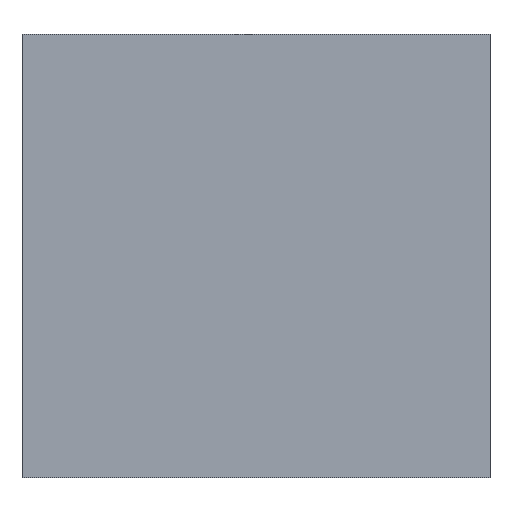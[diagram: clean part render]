
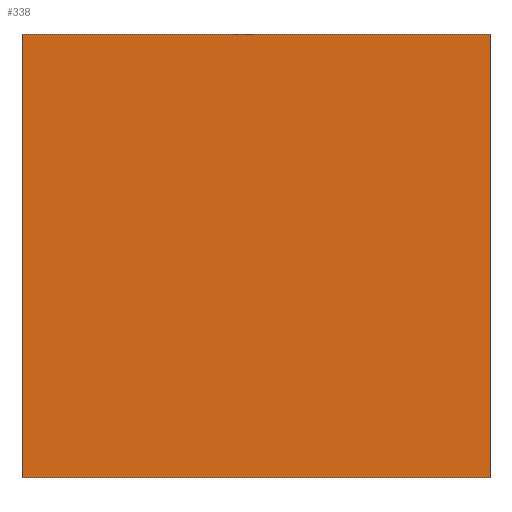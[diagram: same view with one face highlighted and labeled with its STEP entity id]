
A CAD part, top view. The second image highlights one B-rep face of the part: STEP entity #338.
In plain terms, the highlighted planar face has unit normal (0, 0, 1).
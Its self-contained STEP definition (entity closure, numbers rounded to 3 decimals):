
#24 = VERTEX_POINT('',#25);
#25 = CARTESIAN_POINT('',(-68.,-9.,15.6));
#32 = PLANE('',#33);
#33 = AXIS2_PLACEMENT_3D('',#34,#35,#36);
#34 = CARTESIAN_POINT('',(-68.,-9.,14.));
#35 = DIRECTION('',(1.,0.,0.));
#36 = DIRECTION('',(0.,0.,1.));
#44 = PLANE('',#45);
#45 = AXIS2_PLACEMENT_3D('',#46,#47,#48);
#46 = CARTESIAN_POINT('',(-68.,-9.,14.));
#47 = DIRECTION('',(0.,1.,0.));
#48 = DIRECTION('',(0.,0.,1.));
#85 = VERTEX_POINT('',#86);
#86 = CARTESIAN_POINT('',(-68.,9.,15.6));
#100 = PLANE('',#101);
#101 = AXIS2_PLACEMENT_3D('',#102,#103,#104);
#102 = CARTESIAN_POINT('',(-68.,9.,14.));
#103 = DIRECTION('',(0.,1.,0.));
#104 = DIRECTION('',(0.,0.,1.));
#112 = EDGE_CURVE('',#24,#85,#113,.T.);
#113 = SURFACE_CURVE('',#114,(#118,#125),.PCURVE_S1.);
#114 = LINE('',#115,#116);
#115 = CARTESIAN_POINT('',(-68.,-9.,15.6));
#116 = VECTOR('',#117,1.);
#117 = DIRECTION('',(0.,1.,0.));
#118 = PCURVE('',#32,#119);
#119 = DEFINITIONAL_REPRESENTATION('',(#120),#124);
#120 = LINE('',#121,#122);
#121 = CARTESIAN_POINT('',(1.6,0.));
#122 = VECTOR('',#123,1.);
#123 = DIRECTION('',(0.,-1.));
#124 = ( GEOMETRIC_REPRESENTATION_CONTEXT(2) 
PARAMETRIC_REPRESENTATION_CONTEXT() REPRESENTATION_CONTEXT('2D SPACE',''
  ) );
#125 = PCURVE('',#126,#131);
#126 = PLANE('',#127);
#127 = AXIS2_PLACEMENT_3D('',#128,#129,#130);
#128 = CARTESIAN_POINT('',(-68.,-9.,15.6));
#129 = DIRECTION('',(0.,0.,1.));
#130 = DIRECTION('',(1.,0.,0.));
#131 = DEFINITIONAL_REPRESENTATION('',(#132),#136);
#132 = LINE('',#133,#134);
#133 = CARTESIAN_POINT('',(0.,0.));
#134 = VECTOR('',#135,1.);
#135 = DIRECTION('',(0.,1.));
#136 = ( GEOMETRIC_REPRESENTATION_CONTEXT(2) 
PARAMETRIC_REPRESENTATION_CONTEXT() REPRESENTATION_CONTEXT('2D SPACE',''
  ) );
#144 = VERTEX_POINT('',#145);
#145 = CARTESIAN_POINT('',(-49.,-9.,15.6));
#152 = PLANE('',#153);
#153 = AXIS2_PLACEMENT_3D('',#154,#155,#156);
#154 = CARTESIAN_POINT('',(-49.,-9.,14.));
#155 = DIRECTION('',(1.,0.,0.));
#156 = DIRECTION('',(0.,0.,1.));
#195 = VERTEX_POINT('',#196);
#196 = CARTESIAN_POINT('',(-49.,9.,15.6));
#217 = EDGE_CURVE('',#144,#195,#218,.T.);
#218 = SURFACE_CURVE('',#219,(#223,#230),.PCURVE_S1.);
#219 = LINE('',#220,#221);
#220 = CARTESIAN_POINT('',(-49.,-9.,15.6));
#221 = VECTOR('',#222,1.);
#222 = DIRECTION('',(0.,1.,0.));
#223 = PCURVE('',#152,#224);
#224 = DEFINITIONAL_REPRESENTATION('',(#225),#229);
#225 = LINE('',#226,#227);
#226 = CARTESIAN_POINT('',(1.6,0.));
#227 = VECTOR('',#228,1.);
#228 = DIRECTION('',(0.,-1.));
#229 = ( GEOMETRIC_REPRESENTATION_CONTEXT(2) 
PARAMETRIC_REPRESENTATION_CONTEXT() REPRESENTATION_CONTEXT('2D SPACE',''
  ) );
#230 = PCURVE('',#126,#231);
#231 = DEFINITIONAL_REPRESENTATION('',(#232),#236);
#232 = LINE('',#233,#234);
#233 = CARTESIAN_POINT('',(19.,0.));
#234 = VECTOR('',#235,1.);
#235 = DIRECTION('',(0.,1.));
#236 = ( GEOMETRIC_REPRESENTATION_CONTEXT(2) 
PARAMETRIC_REPRESENTATION_CONTEXT() REPRESENTATION_CONTEXT('2D SPACE',''
  ) );
#263 = EDGE_CURVE('',#24,#144,#264,.T.);
#264 = SURFACE_CURVE('',#265,(#269,#276),.PCURVE_S1.);
#265 = LINE('',#266,#267);
#266 = CARTESIAN_POINT('',(-68.,-9.,15.6));
#267 = VECTOR('',#268,1.);
#268 = DIRECTION('',(1.,0.,0.));
#269 = PCURVE('',#44,#270);
#270 = DEFINITIONAL_REPRESENTATION('',(#271),#275);
#271 = LINE('',#272,#273);
#272 = CARTESIAN_POINT('',(1.6,0.));
#273 = VECTOR('',#274,1.);
#274 = DIRECTION('',(0.,1.));
#275 = ( GEOMETRIC_REPRESENTATION_CONTEXT(2) 
PARAMETRIC_REPRESENTATION_CONTEXT() REPRESENTATION_CONTEXT('2D SPACE',''
  ) );
#276 = PCURVE('',#126,#277);
#277 = DEFINITIONAL_REPRESENTATION('',(#278),#282);
#278 = LINE('',#279,#280);
#279 = CARTESIAN_POINT('',(0.,0.));
#280 = VECTOR('',#281,1.);
#281 = DIRECTION('',(1.,0.));
#282 = ( GEOMETRIC_REPRESENTATION_CONTEXT(2) 
PARAMETRIC_REPRESENTATION_CONTEXT() REPRESENTATION_CONTEXT('2D SPACE',''
  ) );
#310 = EDGE_CURVE('',#85,#195,#311,.T.);
#311 = SURFACE_CURVE('',#312,(#316,#323),.PCURVE_S1.);
#312 = LINE('',#313,#314);
#313 = CARTESIAN_POINT('',(-68.,9.,15.6));
#314 = VECTOR('',#315,1.);
#315 = DIRECTION('',(1.,0.,0.));
#316 = PCURVE('',#100,#317);
#317 = DEFINITIONAL_REPRESENTATION('',(#318),#322);
#318 = LINE('',#319,#320);
#319 = CARTESIAN_POINT('',(1.6,0.));
#320 = VECTOR('',#321,1.);
#321 = DIRECTION('',(0.,1.));
#322 = ( GEOMETRIC_REPRESENTATION_CONTEXT(2) 
PARAMETRIC_REPRESENTATION_CONTEXT() REPRESENTATION_CONTEXT('2D SPACE',''
  ) );
#323 = PCURVE('',#126,#324);
#324 = DEFINITIONAL_REPRESENTATION('',(#325),#329);
#325 = LINE('',#326,#327);
#326 = CARTESIAN_POINT('',(0.,18.));
#327 = VECTOR('',#328,1.);
#328 = DIRECTION('',(1.,0.));
#329 = ( GEOMETRIC_REPRESENTATION_CONTEXT(2) 
PARAMETRIC_REPRESENTATION_CONTEXT() REPRESENTATION_CONTEXT('2D SPACE',''
  ) );
#338 = ADVANCED_FACE('',(#339),#126,.T.);
#339 = FACE_BOUND('',#340,.T.);
#340 = EDGE_LOOP('',(#341,#342,#343,#344));
#341 = ORIENTED_EDGE('',*,*,#112,.F.);
#342 = ORIENTED_EDGE('',*,*,#263,.T.);
#343 = ORIENTED_EDGE('',*,*,#217,.T.);
#344 = ORIENTED_EDGE('',*,*,#310,.F.);
